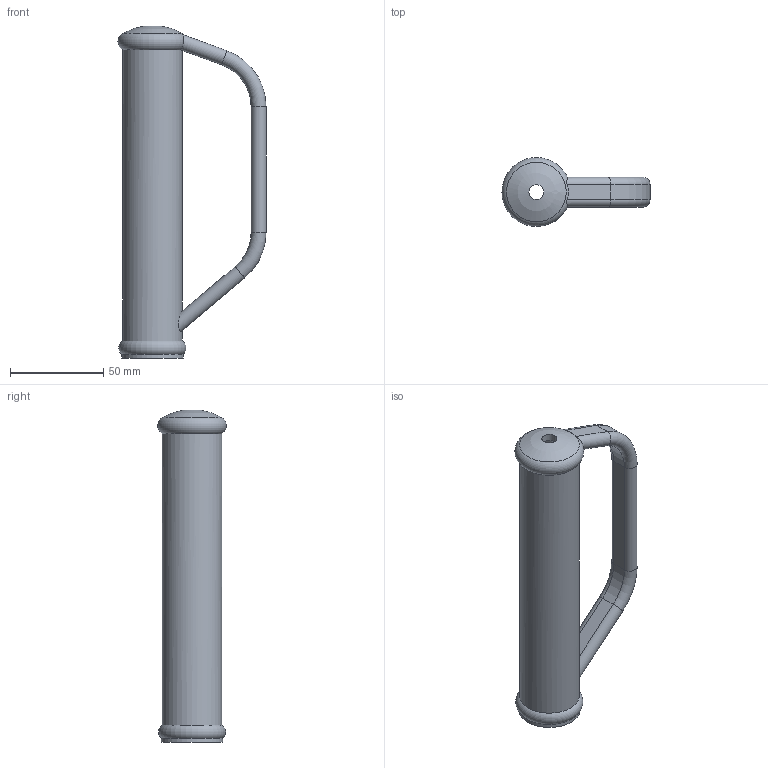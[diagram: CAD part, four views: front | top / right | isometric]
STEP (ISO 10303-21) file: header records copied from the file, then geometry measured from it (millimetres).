
FILE_DESCRIPTION( ('This file contains a STEP AP42 implementation' ,'as created by ZW3D STEP Interface translator.') ,'2;1' );
FILE_NAME( 'Raczka wozka z oslona.stp' ,'26 9 3. 54247', (''), ('ZWCAD Software Co.'), 'Version 1.0', 'ZW3D to STEP translator', '' );
FILE_SCHEMA(('AP242_MANAGED_MODEL_BASED_3D_ENGINEERING_MIM_LF { 1 0 10303 442 1 1 4 }'));
Length unit declared in the file: millimetre
Products named in the file (1): 0
Bounding box: 79.5 x 36.97 x 178.25 mm (x, y, z)
Volume: 101062.2 mm3; surface area: 39017 mm2
Topology: 1 solids, 1 shells, 29 faces, 73 edges, 50 vertices
Faces by surface type: cylinder 14, plane 7, torus 6, sphere 2
Full cylindrical faces by diameter (mm): 8 x1, 22 x1, 32 x1, 33 x1
Entity records: 957 total; most frequent: CARTESIAN_POINT 209, DIRECTION 154, ORIENTED_EDGE 136, EDGE_CURVE 68, AXIS2_PLACEMENT_3D 63, VERTEX_POINT 38, CIRCLE 31, EDGE_LOOP 30
